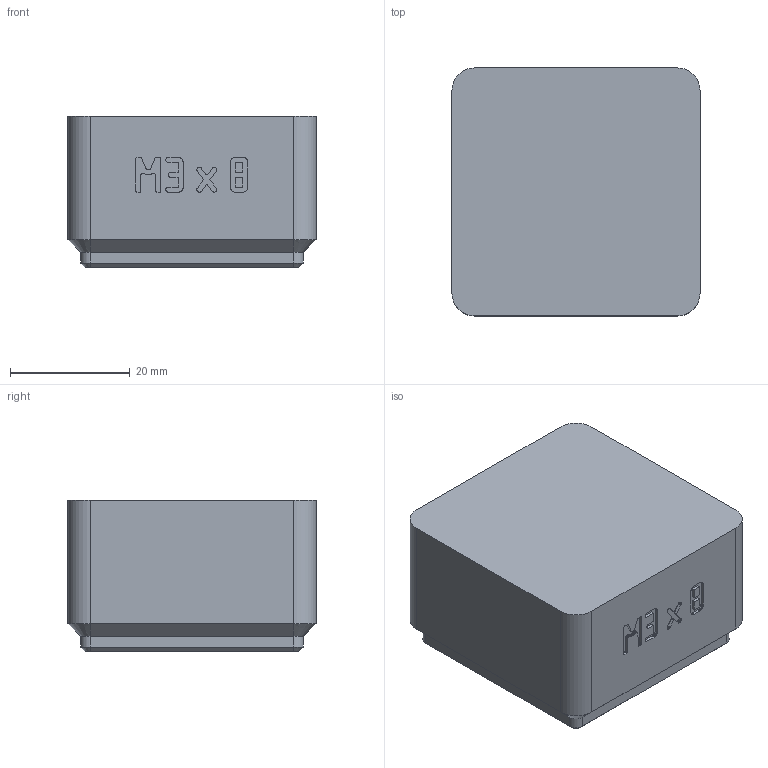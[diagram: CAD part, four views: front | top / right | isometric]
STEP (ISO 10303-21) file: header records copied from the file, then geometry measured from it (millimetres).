
FILE_DESCRIPTION(('Open CASCADE Model'),'2;1');
FILE_NAME('Open CASCADE Shape Model','2026-11-03T16:22:47',('Author'),( 'Open CASCADE'),'Open CASCADE STEP processor 8.0','build123d', 'Unknown');
FILE_SCHEMA(('AUTOMOTIVE_DESIGN { 1 0 10303 214 1 1 1 1 }'));
Products named in the file (1): COMPOUND
Bounding box: 41.5 x 41.5 x 25.4 mm (x, y, z)
Volume: 14686.8 mm3; surface area: 13516.9 mm2
Topology: 1 solids, 2 shells, 905 faces, 2624 edges, 1736 vertices
Faces by surface type: plane 869, cylinder 16, cone 12, bspline 8
Entity records: 63226 total; most frequent: CARTESIAN_POINT 10778, DIRECTION 9568, LINE 7668, VECTOR 7668, ORIENTED_EDGE 5248, PCURVE 5248, DEFINITIONAL_REPRESENTATION 5248, EDGE_CURVE 2624
